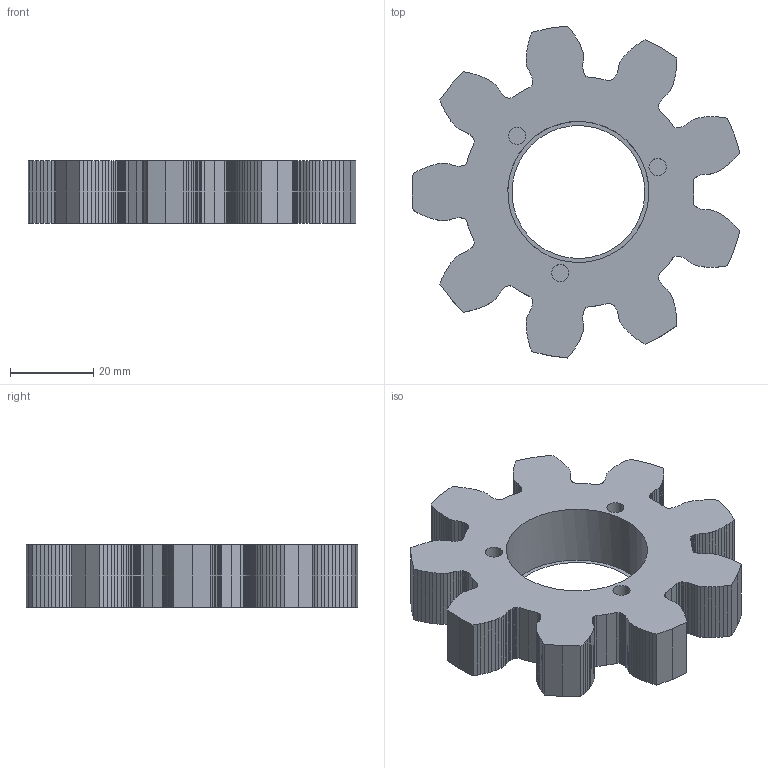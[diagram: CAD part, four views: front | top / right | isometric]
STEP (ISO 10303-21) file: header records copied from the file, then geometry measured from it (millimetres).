
FILE_DESCRIPTION( ( 'Unknown' ), '1' );
FILE_NAME( 'F:/navkite transat/construction/2016/3D ET ASSEMBLAGES/self tailing/WI 20.stp', 'Unknown', ( 'GMA' ), ( 'Unknown' ), 'XStep 1.0', 'Unknown', ' ' );
FILE_SCHEMA( ( 'automotive_design' ) );
Length unit declared in the file: millimetre
Products named in the file (3): 2
Bounding box: 78.95 x 79.92 x 15 mm (x, y, z)
Volume: 42834.4 mm3; surface area: 16514.2 mm2
Topology: 1 solids, 2 shells, 421 faces, 1673 edges, 1255 vertices
Faces by surface type: plane 417, cylinder 4
Full cylindrical faces by diameter (mm): 4.134 x3, 34 x1
Entity records: 20618 total; most frequent: CARTESIAN_POINT 3384, ORIENTED_EDGE 2915, DIRECTION 2520, EDGE_CURVE 1666, LINE 1656, VECTOR 1656, VERTEX_POINT 1252, EDGE_LOOP 434
